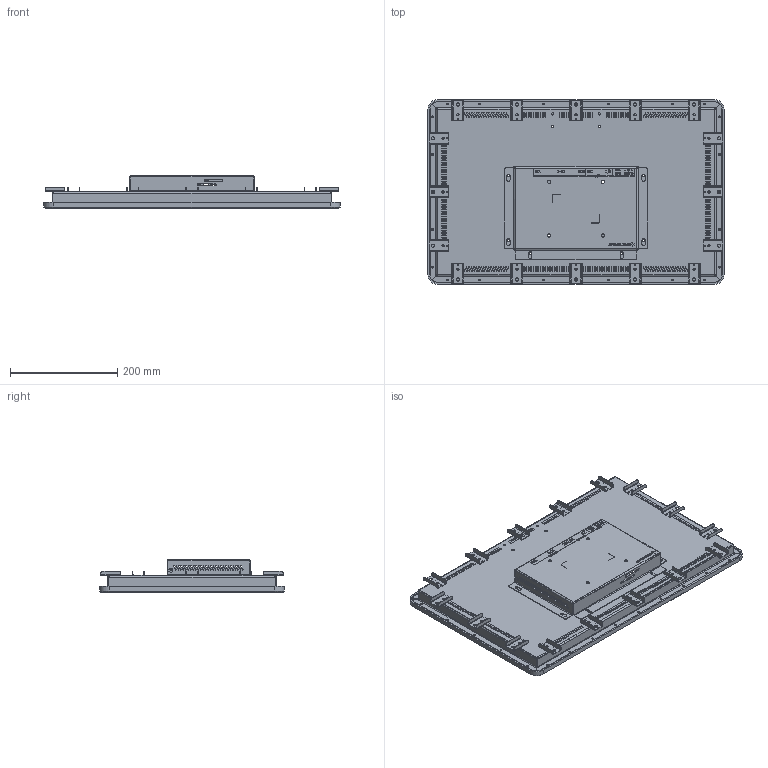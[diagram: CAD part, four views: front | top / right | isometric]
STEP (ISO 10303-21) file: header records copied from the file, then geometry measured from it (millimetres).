
FILE_DESCRIPTION(('STEP AP242'), '1');
FILE_NAME('DNA22_ÏîëíàÿÑáîðêà', '', ('UNSPECIFIED'), ('UNSPECIFIED'), 'C3D Converter', 'C3D Toolkit', '');
FILE_SCHEMA(('AP242_MANAGED_MODEL_BASED_3D_ENGINEERING_MIM_LF { 1 0 10303 442 1 1 4 }'));
Length unit declared in the file: millimetre
Products named in the file (1): -step
Bounding box: 551.6 x 344.2 x 61 mm (x, y, z)
Volume: 786313.5 mm3; surface area: 682232.4 mm2
Topology: 1 solids, 1 shells, 4004 faces, 10863 edges, 7092 vertices
Faces by surface type: plane 2016, cylinder 1046, extrusion 894, bspline 40, cone 8
Full cylindrical faces by diameter (mm): 1.6 x16, 2 x19, 2.5 x42, 3.5 x28, 4 x6, 4.2 x26, 4.22 x6, 4.37 x15, 6 x16, 6.1 x4
Entity records: 161585 total; most frequent: CARTESIAN_POINT 29764, ORIENTED_EDGE 21370, DIRECTION 17915, EDGE_CURVE 10685, VECTOR 7649, VERTEX_POINT 7092, LINE 6755, EDGE_LOOP 5167
